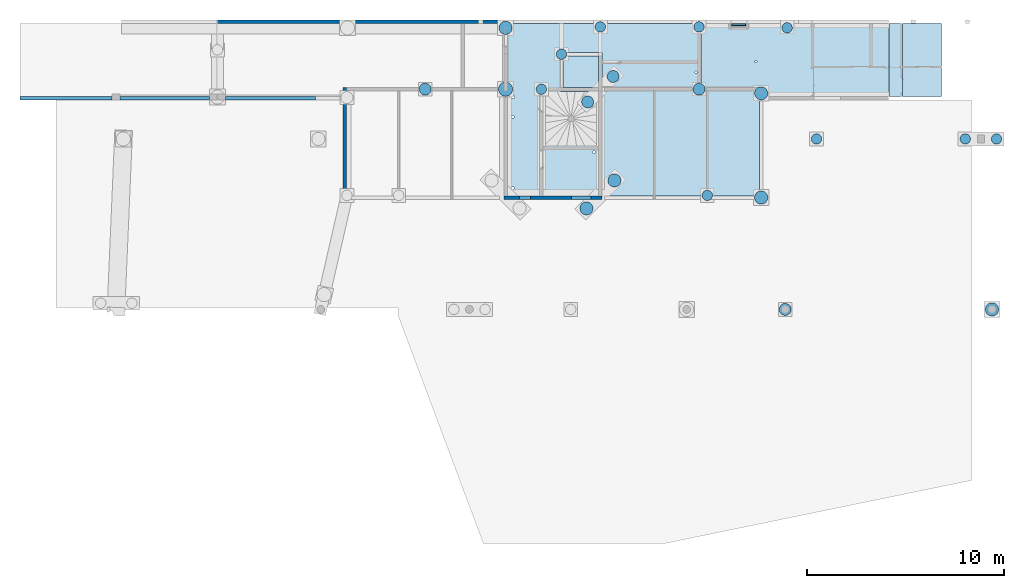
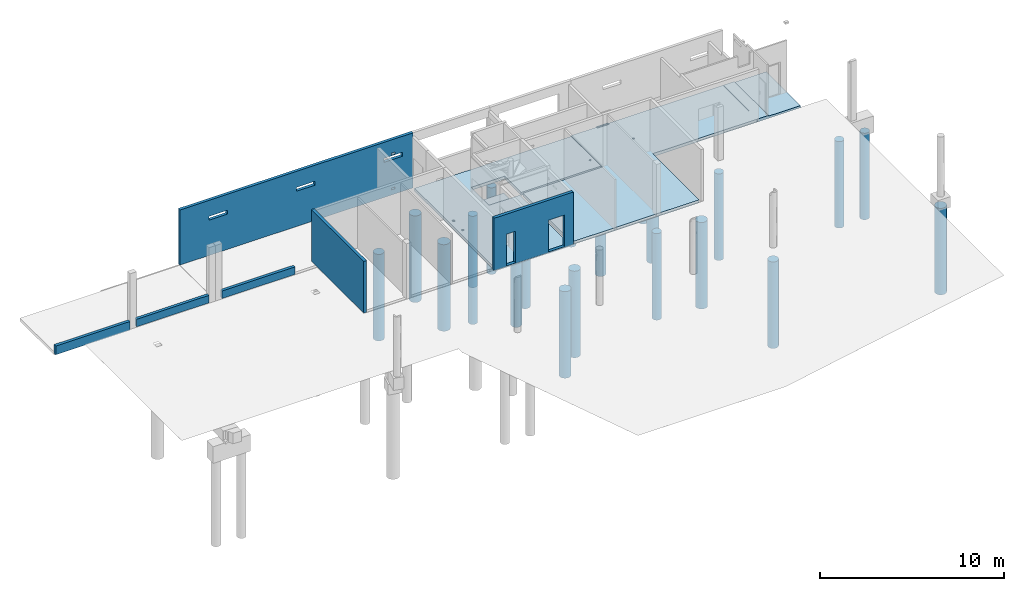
# One storey, part 4 of 29: 25 slabs, 6 walls, 12 openings.
"""IFC2X3 building model written with IfcOpenShell, lengths in centimetres."""

from ifc_helpers import new_model, entity, si_unit, converted_unit, derived_unit, direction, frame, frame_2d, origin, origin_2d_with_axis, place, context, subcontext, project, spatial, polyline, circle_curve, parameter, trimmed, segment, composite_curve, rectangle, circle, outline, extrude, material, layer, layer_set, layer_usage, type_object, element, save


model = new_model("IFC2X3")

# Units and contexts
model_context = context("Model", 3, precision=0.001, world=origin(), true_north=direction((6.12303176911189e-17, 1.0)))
body_context = subcontext(model_context, "Body", "Model", "MODEL_VIEW")
ifc_project = project(units=[si_unit("LENGTHUNIT", "METRE", prefix="CENTI"), si_unit("AREAUNIT", "SQUARE_METRE"), si_unit("VOLUMEUNIT", "CUBIC_METRE"), converted_unit("PLANEANGLEUNIT", "DEGREE", entity("IfcRatioMeasure", 0.0174532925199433), si_unit("PLANEANGLEUNIT", "RADIAN"), dimensions=[0, 0, 0, 0, 0, 0, 0]), si_unit("MASSUNIT", "GRAM", prefix="KILO"), derived_unit("MASSDENSITYUNIT", [(si_unit("MASSUNIT", "GRAM", prefix="KILO"), 1), (si_unit("LENGTHUNIT", "METRE"), -3)]), si_unit("TIMEUNIT", "SECOND"), si_unit("FREQUENCYUNIT", "HERTZ"), si_unit("THERMODYNAMICTEMPERATUREUNIT", "DEGREE_CELSIUS"), derived_unit("THERMALTRANSMITTANCEUNIT", [(si_unit("MASSUNIT", "GRAM", prefix="KILO"), 1), (si_unit("THERMODYNAMICTEMPERATUREUNIT", "KELVIN"), -1), (si_unit("TIMEUNIT", "SECOND"), -3)]), derived_unit("VOLUMETRICFLOWRATEUNIT", [(si_unit("LENGTHUNIT", "METRE"), 3), (si_unit("TIMEUNIT", "SECOND"), -1)]), si_unit("ELECTRICCURRENTUNIT", "AMPERE"), si_unit("ELECTRICVOLTAGEUNIT", "VOLT"), si_unit("POWERUNIT", "WATT"), si_unit("FORCEUNIT", "NEWTON"), si_unit("ILLUMINANCEUNIT", "LUX"), si_unit("LUMINOUSFLUXUNIT", "LUMEN"), si_unit("LUMINOUSINTENSITYUNIT", "CANDELA"), derived_unit("USERDEFINED", [(si_unit("MASSUNIT", "GRAM", prefix="KILO"), -1), (si_unit("LENGTHUNIT", "METRE"), -2), (si_unit("TIMEUNIT", "SECOND"), 3), (si_unit("LUMINOUSFLUXUNIT", "LUMEN"), 1)]), derived_unit("LINEARVELOCITYUNIT", [(si_unit("LENGTHUNIT", "METRE"), 1), (si_unit("TIMEUNIT", "SECOND"), -1)]), si_unit("PRESSUREUNIT", "PASCAL"), derived_unit("USERDEFINED", [(si_unit("LENGTHUNIT", "METRE"), -2), (si_unit("MASSUNIT", "GRAM", prefix="KILO"), 1), (si_unit("TIMEUNIT", "SECOND"), -2)])], contexts=[model_context])

# Site, building, storey
site_placement = place(None, origin())
site = spatial("IfcSite", under=ifc_project, at=site_placement, Name="Default", CompositionType="ELEMENT")
building_placement = place(site_placement, origin())
building = spatial("IfcBuilding", under=site, at=building_placement, Name="CAGE 03", CompositionType="ELEMENT")
storey_placement = place(building_placement, frame((0.0, 0.0, -26.0)))
storey = spatial("IfcBuildingStorey", under=building, at=storey_placement, Name="+3.74", CompositionType="ELEMENT", Elevation=-26.0000000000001)

# Slabs
ifc_material_1 = material(Name="B25")
slab_1_placement = place(storey_placement, origin())
element("IfcSlab", 1, at=slab_1_placement, inside=storey, material=ifc_material_1, Name="Pieux:Ø46/67", ObjectType="Pieux:Ø46/67", PredefinedType="BASESLAB", context=body_context, shape_type="SweptSolid", body=[
    extrude(circle(Radius=33.5, at=origin_2d_with_axis()), frame((6840.36582014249, 5253.66066607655, -725.0)), (0.0, 0.0, 1.0), 575.0),
])
slab_2_placement = place(storey_placement, origin())
element("IfcSlab", 2, at=slab_2_placement, inside=storey, material=ifc_material_1, Name="Pieux:Ø36/53", ObjectType="Pieux:Ø36/53", PredefinedType="BASESLAB", context=body_context, shape_type="SweptSolid", body=[
    extrude(circle(Radius=26.5, at=origin_2d_with_axis()), frame((7322.36582014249, 5258.6606660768, -715.0)), (0.0, 0.0, 1.0), 575.0),
])
slab_3_placement = place(storey_placement, origin())
element("IfcSlab", 3, at=slab_3_placement, inside=storey, material=ifc_material_1, Name="Pieux:Ø36/53", ObjectType="Pieux:Ø36/53", PredefinedType="BASESLAB", context=body_context, shape_type="SweptSolid", body=[
    extrude(circle(Radius=26.5, at=origin_2d_with_axis()), frame((7824.36582014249, 5258.6606660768, -710.0)), (0.0, 0.0, 1.0), 575.0),
])
slab_4_placement = place(storey_placement, origin())
element("IfcSlab", 4, at=slab_4_placement, inside=storey, material=ifc_material_1, Name="Pieux:Ø36/53", ObjectType="Pieux:Ø36/53", PredefinedType="BASESLAB", context=body_context, shape_type="SweptSolid", body=[
    extrude(circle(Radius=26.5, at=origin_2d_with_axis()), frame((8272.36582014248, 5253.6606660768, -710.0)), (0.0, 0.0, 1.0), 575.0),
])
slab_5_placement = place(storey_placement, origin())
element("IfcSlab", 5, at=slab_5_placement, inside=storey, material=ifc_material_1, Name="Pieux:Ø41/61", ObjectType="Pieux:Ø41/61", PredefinedType="BASESLAB", context=body_context, shape_type="SweptSolid", body=[
    extrude(circle(Radius=30.5, at=origin_2d_with_axis()), frame((6431.36582014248, 4941.6606660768, -650.0)), (0.0, 0.0, 1.0), 575.0),
])
slab_6_placement = place(storey_placement, origin())
element("IfcSlab", 6, at=slab_6_placement, inside=storey, material=ifc_material_1, Name="Pieux:Ø51/72", ObjectType="Pieux:Ø51/72", PredefinedType="BASESLAB", context=body_context, shape_type="SweptSolid", body=[
    extrude(circle(Radius=36.0, at=origin_2d_with_axis()), frame((6840.36582014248, 4941.6606660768, -725.0)), (0.0, 0.0, 1.0), 575.0),
])
slab_7_placement = place(storey_placement, origin())
element("IfcSlab", 7, at=slab_7_placement, inside=storey, material=ifc_material_1, Name="Pieux:Ø46/67", ObjectType="Pieux:Ø46/67", PredefinedType="BASESLAB", context=body_context, shape_type="SweptSolid", body=[
    extrude(circle(Radius=33.5, at=origin_2d_with_axis()), frame((7251.30158863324, 4335.59643456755, -815.0)), (0.0, 0.0, 1.0), 575.0),
])
slab_8_placement = place(storey_placement, origin())
element("IfcSlab", 8, at=slab_8_placement, inside=storey, material=ifc_material_1, Name="Pieux:Ø36/53", ObjectType="Pieux:Ø36/53", PredefinedType="BASESLAB", context=body_context, shape_type="SweptSolid", body=[
    extrude(circle(Radius=26.5, at=origin_2d_with_axis()), frame((7866.36582014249, 4401.6606660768, -690.0)), (0.0, 0.0, 1.0), 575.0),
])
slab_9_placement = place(storey_placement, origin())
element("IfcSlab", 9, at=slab_9_placement, inside=storey, material=ifc_material_1, Name="Pieux:Ø46/67", ObjectType="Pieux:Ø46/67", PredefinedType="BASESLAB", context=body_context, shape_type="SweptSolid", body=[
    extrude(circle(Radius=33.5, at=origin_2d_with_axis()), frame((8140.36582014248, 4390.6606660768, -700.0)), (0.0, 0.0, 1.0), 575.0),
])
slab_10_placement = place(storey_placement, origin())
element("IfcSlab", 10, at=slab_10_placement, inside=storey, material=ifc_material_1, Name="Pieux:Ø36/53", ObjectType="Pieux:Ø36/53", PredefinedType="BASESLAB", context=body_context, shape_type="SweptSolid", body=[
    extrude(circle(Radius=26.5, at=origin_2d_with_axis()), frame((8421.86582014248, 4688.6606660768, -662.0)), (0.0, 0.0, 1.0), 575.0),
])
slab_11_placement = place(storey_placement, origin())
element("IfcSlab", 11, at=slab_11_placement, inside=storey, material=ifc_material_1, Name="Pieux:Ø36/53", ObjectType="Pieux:Ø36/53", PredefinedType="BASESLAB", context=body_context, shape_type="SweptSolid", body=[
    extrude(circle(Radius=26.5, at=origin_2d_with_axis()), frame((9178.36489605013, 4688.66066607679, -712.0)), (0.0, 0.0, 1.0), 575.0),
])
slab_12_placement = place(storey_placement, origin())
element("IfcSlab", 12, at=slab_12_placement, inside=storey, material=ifc_material_1, Name="Pieux:Ø46/67", ObjectType="Pieux:Ø46/67", PredefinedType="BASESLAB", context=body_context, shape_type="SweptSolid", body=[
    extrude(circle(Radius=33.5, at=origin_2d_with_axis()), frame((8140.36582014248, 4920.6606660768, -720.0)), (0.0, 0.0, 1.0), 575.0),
])
slab_13_placement = place(storey_placement, origin())
element("IfcSlab", 13, at=slab_13_placement, inside=storey, material=ifc_material_1, Name="Pieux:Ø36/53", ObjectType="Pieux:Ø36/53", PredefinedType="BASESLAB", context=body_context, shape_type="SweptSolid", body=[
    extrude(circle(Radius=26.5, at=origin_2d_with_axis()), frame((7124.36582014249, 5119.6606660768, -650.0)), (0.0, 0.0, 1.0), 475.0),
])
slab_14_placement = place(storey_placement, origin())
element("IfcSlab", 14, at=slab_14_placement, inside=storey, material=ifc_material_1, Name="Pieux:Ø41/61", ObjectType="Pieux:Ø41/61", PredefinedType="BASESLAB", context=body_context, shape_type="SweptSolid", body=[
    extrude(circle(Radius=30.5, at=origin_2d_with_axis()), frame((7257.66554966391, 4876.96039559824, -810.0)), (0.0, 0.0, 1.0), 575.0),
])
slab_15_placement = place(storey_placement, origin())
element("IfcSlab", 15, at=slab_15_placement, inside=storey, material=ifc_material_1, Name="Pieux:Ø36/53", ObjectType="Pieux:Ø36/53", PredefinedType="BASESLAB", context=body_context, shape_type="SweptSolid", body=[
    extrude(circle(Radius=26.5, at=origin_2d_with_axis()), frame((7022.36582014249, 4941.6606660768, -750.0)), (0.0, 0.0, 1.0), 575.0),
])
slab_16_placement = place(storey_placement, origin())
element("IfcSlab", 16, at=slab_16_placement, inside=storey, material=ifc_material_1, Name="Pieux:Ø41/61", ObjectType="Pieux:Ø41/61", PredefinedType="BASESLAB", context=body_context, shape_type="SweptSolid", body=[
    extrude(circle(Radius=30.5, at=origin_2d_with_axis()), frame((8262.36582014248, 3821.6606660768, -662.0)), (0.0, 0.0, 1.0), 575.0),
])
slab_17_placement = place(storey_placement, origin())
element("IfcSlab", 17, at=slab_17_placement, inside=storey, material=ifc_material_1, Name="Pieux:Ø46/67", ObjectType="Pieux:Ø46/67", PredefinedType="BASESLAB", context=body_context, shape_type="SweptSolid", body=[
    extrude(circle(Radius=33.5, at=origin_2d_with_axis()), frame((9314.36582014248, 3821.66066607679, -672.0)), (0.0, 0.0, 1.0), 575.0),
])
slab_18_placement = place(storey_placement, origin())
element("IfcSlab", 18, at=slab_18_placement, inside=storey, material=ifc_material_1, Name="Pieux:Ø41/61", ObjectType="Pieux:Ø41/61", PredefinedType="BASESLAB", context=body_context, shape_type="SweptSolid", body=[
    extrude(circle(Radius=30.5, at=origin_2d_with_axis()), frame((7824.36582014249, 4941.6606660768, -710.0)), (0.0, 0.0, 1.0), 575.0),
])
ifc_material_2 = material(Name="Béton, C25/30")
ifc_layer_1 = layer(ifc_material_2, 20.0)
ifc_layer_set_1 = layer_set([ifc_layer_1], Name="Sol:Dalle Béton - 20 cm")
ifc_layer_usage_1 = layer_usage(ifc_layer_set_1, "AXIS3", "POSITIVE", 0.0)
slab_19_placement = place(storey_placement, origin())
element("IfcSlab", 19, at=slab_19_placement, inside=storey, material=ifc_layer_usage_1, Name="Sol:Dalle Béton - 20 cm", ObjectType="Sol:Dalle Béton - 20 cm", PredefinedType="FLOOR", context=body_context, shape_type="SweptSolid", body=[
    extrude(rectangle(XDim=160.000000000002, YDim=180.000000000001, at=origin_2d_with_axis()), frame((7223.36582014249, 5030.6606660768, -100.0), z_axis=(0.0, 0.0, -1.0), x_axis=(0.0, 1.0, 0.0)), (0.0, 0.0, 1.0), 20.0),
])
slab_20_placement = place(storey_placement, origin())
element("IfcSlab", 20, at=slab_20_placement, inside=storey, material=ifc_material_1, Name="Pieux:Ø41/61", ObjectType="Pieux:Ø41/61", PredefinedType="BASESLAB", context=body_context, shape_type="SweptSolid", body=[
    extrude(circle(Radius=30.5, at=origin_2d_with_axis()), frame((7387.06609062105, 5006.36093655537, -810.0)), (0.0, 0.0, 1.0), 575.0),
])
slab_21_placement = place(storey_placement, origin())
element("IfcSlab", 21, at=slab_21_placement, inside=storey, material=ifc_material_1, Name="Pieux:Ø36/53", ObjectType="Pieux:Ø36/53", PredefinedType="BASESLAB", context=body_context, shape_type="SweptSolid", body=[
    extrude(circle(Radius=26.5, at=origin_2d_with_axis()), frame((9337.36489605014, 4688.66066607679, -712.0)), (0.0, 0.0, 1.0), 575.0),
])
slab_22_placement = place(storey_placement, origin())
element("IfcSlab", 22, at=slab_22_placement, inside=storey, material=ifc_material_1, Name="Pieux:Ø46/67", ObjectType="Pieux:Ø46/67", PredefinedType="BASESLAB", context=body_context, shape_type="SweptSolid", body=[
    extrude(circle(Radius=33.5, at=origin_2d_with_axis()), frame((7393.43005165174, 4477.72489758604, -815.0)), (0.0, 0.0, 1.0), 575.0),
])

# Slab, openings
ifc_layer_usage_2 = layer_usage(ifc_layer_set_1, "AXIS3", "POSITIVE", 0.0)
slab_23_placement = place(storey_placement, frame((6849.36582014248, 4399.63764900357, -25.0)))
slab_23 = element("IfcSlab", 23, at=slab_23_placement, inside=storey, material=ifc_layer_usage_2, Name="Sol:Dalle Béton - 20 cm", ObjectType="Sol:Dalle Béton - 20 cm", PredefinedType="FLOOR", context=body_context, shape_type="SweptSolid", body=[
    extrude(outline(polyline([(-492.0, 438.011508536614), (-492.0, 113.011508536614), (10.0, 113.011508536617), (10.0, 291.011508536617), (223.0, 291.011508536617), (223.0, 95.0115085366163), (28.0, 95.0115085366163), (28.0, -438.011508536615), (492.0, -438.011508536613), (492.0, 438.011508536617), (-492.0, 438.011508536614)])), frame((492.0, 438.011508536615, 20.0), z_axis=(0.0, 0.0, -1.0), x_axis=(-1.0, 0.0, 0.0)), (0.0, 0.0, 1.0), 20.0),
])
opening_1_placement = place(slab_23_placement, origin())
element("IfcOpeningElement", 24, at=opening_1_placement, cuts=slab_23, ObjectType="Opening", context=body_context, shape_type="SweptSolid", body=[
    extrude(circle(Radius=8.0, at=origin_2d_with_axis()), frame((29.0, 501.719311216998, 0.0)), (0.0, 0.0, 1.0), 20.0),
])
opening_2_placement = place(slab_23_placement, origin())
element("IfcOpeningElement", 25, at=opening_2_placement, cuts=slab_23, ObjectType="Opening", context=body_context, shape_type="SweptSolid", body=[
    extrude(circle(Radius=7.0, at=origin_2d_with_axis()), frame((28.0, 401.341111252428, 0.0)), (0.0, 0.0, 1.0), 20.0),
])
opening_3_placement = place(slab_23_placement, origin())
element("IfcOpeningElement", 26, at=opening_3_placement, cuts=slab_23, ObjectType="Opening", context=body_context, shape_type="SweptSolid", body=[
    extrude(circle(Radius=7.0, at=origin_2d_with_axis()), frame((28.0, 39.0230170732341, 0.0)), (0.0, 0.0, 1.0), 20.0),
])
opening_4_placement = place(slab_23_placement, origin())
element("IfcOpeningElement", 27, at=opening_4_placement, cuts=slab_23, ObjectType="Opening", context=body_context, shape_type="SweptSolid", body=[
    extrude(circle(Radius=5.5, at=origin_2d_with_axis()), frame((959.684654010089, 628.631954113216, 0.0)), (0.0, 0.0, 1.0), 20.0),
])
opening_5_placement = place(slab_23_placement, origin())
element("IfcOpeningElement", 28, at=opening_5_placement, cuts=slab_23, ObjectType="Opening", context=body_context, shape_type="SweptSolid", body=[
    extrude(circle(Radius=7.0, at=origin_2d_with_axis()), frame((440.237215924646, 222.232282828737, 0.0)), (0.0, 0.0, 1.0), 20.0),
])

# Slabs
ifc_layer_usage_3 = layer_usage(ifc_layer_set_1, "AXIS3", "POSITIVE", 0.0)
slab_24_placement = place(storey_placement, origin())
element("IfcSlab", 29, at=slab_24_placement, inside=storey, material=ifc_layer_usage_3, Name="Sol:Dalle Béton - 20 cm", ObjectType="Sol:Dalle Béton - 20 cm", PredefinedType="FLOOR", context=body_context, shape_type="SweptSolid", body=[
    extrude(outline(polyline([(-10.8888888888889, -111.555555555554), (-6.88888888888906, -111.555555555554), (9.11111111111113, -111.555555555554), (9.11111111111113, -52.5555555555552), (9.11111111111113, -42.5555555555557), (4.11111111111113, -42.5555555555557), (4.11111111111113, 157.444444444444), (-6.88888888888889, 157.444444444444), (-10.8888888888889, 157.444444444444), (-10.8888888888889, -111.555555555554)])), frame((8900.92137569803, 4904.66066607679, -9.11111111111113), z_axis=(0.0, 1.0, 0.0), x_axis=(0.0, 0.0, 1.0)), (0.0, 0.0, 1.0), 371.000000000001),
    extrude(outline(polyline([(162.549999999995, 75.4307542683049), (818.549999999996, 75.4307542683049), (818.549999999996, 97.4307542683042), (818.549999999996, 424.430754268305), (818.549999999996, 446.430754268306), (303.549999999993, 446.430754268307), (-135.449999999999, 446.430754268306), (-135.449999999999, 424.430754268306), (-135.450000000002, 124.930754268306), (-135.450000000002, 103.430754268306), (-153.449999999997, 103.430754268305), (-626.45, 103.430754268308), (-637.449999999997, 103.430754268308), (-637.449999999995, -397.569245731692), (-637.449999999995, -429.592262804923), (-626.449999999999, -429.592262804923), (-117.449999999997, -429.592262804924), (-87.4499999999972, -429.592262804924), (162.549999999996, -429.592262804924), (162.549999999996, -429.569245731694), (162.549999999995, 75.4307542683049)]), holes=[composite_curve([segment(trimmed(circle_curve(frame_2d((144.305376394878, 253.924397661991), x_axis=(1.0, 0.0)), 5.5), [parameter(180.0)], [parameter(360.0)], True, "PARAMETER"), False, "CONTINUOUS"), segment(trimmed(circle_curve(frame_2d((144.305376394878, 253.924397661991), x_axis=(1.0, 0.0)), 5.5), [parameter(3.56222124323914e-13)], [parameter(180.0)], True, "PARAMETER"), False, "CONTINUOUS")], self_intersect=False)]), frame((7968.81582014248, 4829.22991180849, -20.0)), (0.0, 0.0, 1.0), 20.0),
])
ifc_layer_2 = layer(ifc_material_2, 5.0)
ifc_layer_set_2 = layer_set([ifc_layer_2], Name="Sol:Dalle Béton - 5 cm")
ifc_layer_usage_4 = layer_usage(ifc_layer_set_2, "AXIS3", "POSITIVE", 0.0)
slab_25_placement = place(storey_placement, origin())
element("IfcSlab", 30, at=slab_25_placement, inside=storey, material=ifc_layer_usage_4, Name="Sol:Dalle Béton - 5 cm", ObjectType="Sol:Dalle Béton - 5 cm", PredefinedType="FLOOR", context=body_context, shape_type="SweptSolid", body=[
    extrude(rectangle(XDim=10.0000000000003, YDim=71.9999999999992, at=frame_2d((4.33431068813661e-13, -8.66862137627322e-13), x_axis=(1.0, 0.0))), frame((8026.86582014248, 5270.6606660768, 5.0), z_axis=(0.0, 0.0, -1.0), x_axis=(0.0, 1.0, 0.0)), (0.0, 0.0, 1.0), 5.0),
])

# Wall, openings
ifc_layer_3 = layer(ifc_material_2, 18.0)
ifc_layer_set_3 = layer_set([ifc_layer_3], Name="Mur de base:Voile BA 18")
ifc_layer_usage_5 = layer_usage(ifc_layer_set_3, "AXIS2", "POSITIVE", -9.0)
wall_type = type_object("IfcWallType", Name="Mur de base:Voile BA 18", PredefinedType="STANDARD", material=ifc_layer_set_3)
wall_1_placement = place(storey_placement, frame((6840.36582014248, 5284.6606660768, 0.0), z_axis=(0.0, 0.0, 1.0), x_axis=(-1.0, 0.0, 0.0)))
wall_1 = element("IfcWallStandardCase", 31, at=wall_1_placement, inside=storey, type_object=wall_type, material=ifc_layer_usage_5, Name="Mur de base:Voile BA 18", ObjectType="Mur de base:Voile BA 18", context=body_context, shape_type="SweptSolid", body=[
    extrude(rectangle(XDim=1465.0, YDim=17.9999999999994, at=frame_2d((732.499999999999, 7.01660951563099e-14), x_axis=(-1.0, 0.0))), origin(), (0.0, 0.0, 1.0), 366.0),
])
opening_6_placement = place(storey_placement, frame((6840.36582014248, 5284.6606660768, 0.0), z_axis=(0.0, 0.0, 1.0), x_axis=(-1.0, 0.0, 0.0)))
element("IfcOpeningElement", 32, at=opening_6_placement, cuts=wall_1, Name="Mur de base:Voile BA 18:1", ObjectType="Opening", context=body_context, shape_type="SweptSolid", body=[
    extrude(rectangle(XDim=18.0000000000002, YDim=22.0000000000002, at=frame_2d((-4.33431068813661e-13, 4.33431068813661e-13), x_axis=(1.0, 0.0))), frame((126.0, 0.0, 266.0), z_axis=(0.0, 0.0, 1.0), x_axis=(0.0, 1.0, 0.0)), (0.0, 0.0, 1.0), 12.0),
])
opening_7_placement = place(storey_placement, frame((6840.36582014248, 5284.6606660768, 0.0), z_axis=(0.0, 0.0, 1.0), x_axis=(-1.0, 0.0, 0.0)))
element("IfcOpeningElement", 33, at=opening_7_placement, cuts=wall_1, Name="Mur de base:Voile BA 18:2", ObjectType="Opening", context=body_context, shape_type="SweptSolid", body=[
    extrude(rectangle(XDim=18.0000000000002, YDim=22.0000000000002, at=frame_2d((-4.33431068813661e-13, -4.33431068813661e-13), x_axis=(1.0, 0.0))), frame((126.0, 0.0, 34.0), z_axis=(0.0, 0.0, 1.0), x_axis=(0.0, 1.0, 0.0)), (0.0, 0.0, 1.0), 12.0),
])
opening_8_placement = place(wall_1_placement, frame((6840.36582014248, 5284.6606660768, -374.0), z_axis=(0.0, 0.0, 1.0), x_axis=(-1.0, 0.0, 0.0)))
element("IfcOpeningElement", 34, at=opening_8_placement, cuts=wall_1, Name="Mur de base:Voile BA 18", ObjectType="Opening", context=body_context, shape_type="SweptSolid", body=[
    extrude(rectangle(XDim=25.9999999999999, YDim=116.0, at=frame_2d((1.33226762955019e-14, -8.66862137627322e-13), x_axis=(1.0, 0.0))), frame((5614.36582014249, 5428.0606660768, 621.0), z_axis=(0.0, -1.0, 0.0), x_axis=(0.0, 0.0, -1.0)), (0.0, 0.0, 1.0), 304.8),
])
opening_9_placement = place(wall_1_placement, frame((6840.36582014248, 5284.6606660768, -374.0), z_axis=(0.0, 0.0, 1.0), x_axis=(-1.0, 0.0, 0.0)))
element("IfcOpeningElement", 35, at=opening_9_placement, cuts=wall_1, Name="Mur de base:Voile BA 18", ObjectType="Opening", context=body_context, shape_type="SweptSolid", body=[
    extrude(rectangle(XDim=25.9999999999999, YDim=116.0, at=frame_2d((1.33226762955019e-14, -8.66862137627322e-13), x_axis=(1.0, 0.0))), frame((6164.36582014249, 5428.0606660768, 621.0), z_axis=(0.0, -1.0, 0.0), x_axis=(0.0, 0.0, -1.0)), (0.0, 0.0, 1.0), 304.8),
])
opening_10_placement = place(wall_1_placement, frame((6840.36582014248, 5284.6606660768, -374.0), z_axis=(0.0, 0.0, 1.0), x_axis=(-1.0, 0.0, 0.0)))
element("IfcOpeningElement", 36, at=opening_10_placement, cuts=wall_1, Name="Mur de base:Voile BA 18", ObjectType="Opening", context=body_context, shape_type="SweptSolid", body=[
    extrude(rectangle(XDim=25.9999999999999, YDim=116.0, at=frame_2d((1.33226762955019e-14, 0.0), x_axis=(1.0, 0.0))), frame((6714.36582014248, 5428.0606660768, 621.0), z_axis=(0.0, -1.0, 0.0), x_axis=(0.0, 0.0, -1.0)), (0.0, 0.0, 1.0), 304.8),
])

# Wall
ifc_layer_usage_6 = layer_usage(ifc_layer_set_3, "AXIS2", "NEGATIVE", 9.0)
wall_2_placement = place(storey_placement, frame((5415.36582014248, 4895.66066607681, 0.0)))
element("IfcWallStandardCase", 37, at=wall_2_placement, inside=storey, type_object=wall_type, material=ifc_layer_usage_6, Name="Mur de base:Voile BA 18", ObjectType="Mur de base:Voile BA 18", context=body_context, shape_type="SweptSolid", body=[
    extrude(rectangle(XDim=459.0, YDim=17.9999999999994, at=frame_2d((229.5, -2.03392858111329e-13), x_axis=(-1.0, 0.0))), origin(), (0.0, 0.0, 1.0), 50.0),
])

# Wall, openings
ifc_layer_usage_7 = layer_usage(ifc_layer_set_3, "AXIS2", "NEGATIVE", 9.0)
wall_3_placement = place(storey_placement, frame((6831.36582014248, 4390.6606660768, -5.0)))
wall_3 = element("IfcWallStandardCase", 38, at=wall_3_placement, inside=storey, type_object=wall_type, material=ifc_layer_usage_7, Name="Mur de base:Voile BA 18", ObjectType="Mur de base:Voile BA 18", context=body_context, shape_type="SweptSolid", body=[
    extrude(rectangle(XDim=500.000000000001, YDim=17.9999999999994, at=frame_2d((250.0, 3.83693077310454e-13), x_axis=(-1.0, 0.0))), origin(), (0.0, 0.0, 1.0), 348.0),
])
opening_11_placement = place(wall_3_placement, frame((-6831.36582014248, -4390.6606660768, 0.0)))
element("IfcOpeningElement", 39, at=opening_11_placement, cuts=wall_3, Name="Mur de base:Voile BA 18", ObjectType="Opening", context=body_context, shape_type="SweptSolid", body=[
    extrude(rectangle(XDim=210.0, YDim=99.9999999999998, at=frame_2d((0.0, 8.66862137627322e-13), x_axis=(1.0, 0.0))), frame((7225.86582014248, 4229.2606660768, 110.0), z_axis=(0.0, 1.0, 0.0), x_axis=(0.0, 0.0, 1.0)), (0.0, 0.0, 1.0), 304.8),
])
opening_12_placement = place(wall_3_placement, frame((-6831.36582014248, -4390.6606660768, 0.0)))
element("IfcOpeningElement", 40, at=opening_12_placement, cuts=wall_3, Name="Mur de base:Voile BA 18", ObjectType="Opening", context=body_context, shape_type="SweptSolid", body=[
    extrude(rectangle(XDim=210.0, YDim=56.0000000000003, at=frame_2d((0.0, -4.33431068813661e-13), x_axis=(1.0, 0.0))), frame((6938.36582014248, 4229.2606660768, 110.0), z_axis=(0.0, 1.0, 0.0), x_axis=(0.0, 0.0, 1.0)), (0.0, 0.0, 1.0), 304.8),
])

# Walls
ifc_layer_usage_8 = layer_usage(ifc_layer_set_3, "AXIS2", "NEGATIVE", 9.0)
wall_4_placement = place(storey_placement, frame((6022.36582014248, 4381.6606660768, 0.0), z_axis=(0.0, 0.0, 1.0), x_axis=(0.0, 1.0, 0.0)))
element("IfcWallStandardCase", 41, at=wall_4_placement, inside=storey, type_object=wall_type, material=ifc_layer_usage_8, Name="Mur de base:Voile BA 18", ObjectType="Mur de base:Voile BA 18", context=body_context, shape_type="SweptSolid", body=[
    extrude(rectangle(XDim=569.000000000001, YDim=17.9999999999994, at=frame_2d((284.500000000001, 1.67865721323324e-13), x_axis=(-1.0, 0.0))), origin(), (0.0, 0.0, 1.0), 343.0),
])
ifc_layer_usage_9 = layer_usage(ifc_layer_set_3, "AXIS2", "NEGATIVE", 9.0)
wall_5_placement = place(storey_placement, frame((4878.36582014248, 4895.66066607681, 0.0)))
element("IfcWallStandardCase", 42, at=wall_5_placement, inside=storey, type_object=wall_type, material=ifc_layer_usage_9, Name="Mur de base:Voile BA 18", ObjectType="Mur de base:Voile BA 18", context=body_context, shape_type="SweptSolid", body=[
    extrude(rectangle(XDim=455.000000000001, YDim=17.9999999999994, at=frame_2d((227.500000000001, 2.63788990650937e-13), x_axis=(-1.0, 0.0))), origin(), (0.0, 0.0, 1.0), 50.0),
])
ifc_layer_usage_10 = layer_usage(ifc_layer_set_3, "AXIS2", "NEGATIVE", 9.0)
wall_6_placement = place(storey_placement, frame((4370.36582014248, 4895.66066607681, -8.0)))
element("IfcWallStandardCase", 43, at=wall_6_placement, inside=storey, type_object=wall_type, material=ifc_layer_usage_10, Name="Mur de base:Voile BA 18", ObjectType="Mur de base:Voile BA 18", context=body_context, shape_type="SweptSolid", body=[
    extrude(rectangle(XDim=468.000000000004, YDim=17.9999999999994, at=frame_2d((234.000000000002, 2.8332891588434e-13), x_axis=(-1.0, 0.0))), origin(), (0.0, 0.0, 1.0), 58.0),
])

save(model, "model.ifc")
